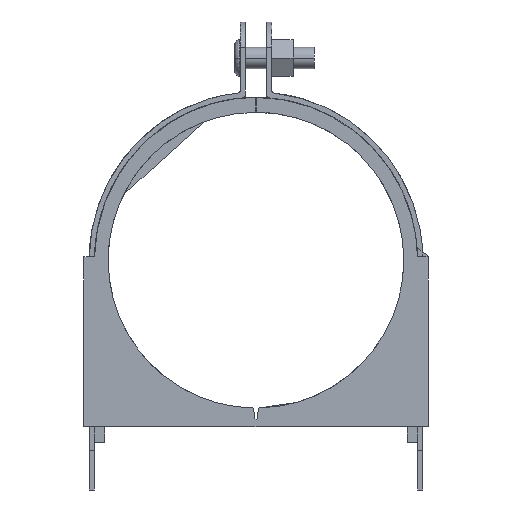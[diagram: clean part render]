
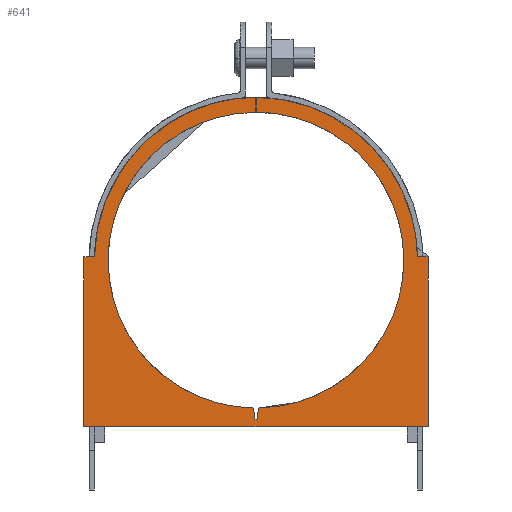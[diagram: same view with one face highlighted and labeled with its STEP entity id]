
A CAD part, front view. The second image highlights one B-rep face of the part: STEP entity #641.
In plain terms, the highlighted planar face has unit normal (0, -1, 0).
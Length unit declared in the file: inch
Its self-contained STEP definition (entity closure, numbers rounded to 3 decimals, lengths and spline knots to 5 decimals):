
#641=ADVANCED_FACE('',(#1455),#1456,.T.);
#1455=FACE_OUTER_BOUND('',#2841,.T.);
#1456=PLANE('',#2842);
#2841=EDGE_LOOP('',(#4366,#4367,#4368,#4369,#4370,#4371,#4372,#4373,#4374,#4375,#4376,#4377,#4378,#4379,#4380,#4381,#4382));
#2842=AXIS2_PLACEMENT_3D('',#4383,#4384,#4385);
#4366=ORIENTED_EDGE('',*,*,#5173,.F.);
#4367=ORIENTED_EDGE('',*,*,#5312,.F.);
#4368=ORIENTED_EDGE('',*,*,#5343,.F.);
#4369=ORIENTED_EDGE('',*,*,#5344,.F.);
#4370=ORIENTED_EDGE('',*,*,#5345,.F.);
#4371=ORIENTED_EDGE('',*,*,#5305,.F.);
#4372=ORIENTED_EDGE('',*,*,#5183,.F.);
#4373=ORIENTED_EDGE('',*,*,#5346,.F.);
#4374=ORIENTED_EDGE('',*,*,#5347,.F.);
#4375=ORIENTED_EDGE('',*,*,#5348,.F.);
#4376=ORIENTED_EDGE('',*,*,#5349,.F.);
#4377=ORIENTED_EDGE('',*,*,#5350,.F.);
#4378=ORIENTED_EDGE('',*,*,#5254,.F.);
#4379=ORIENTED_EDGE('',*,*,#5268,.F.);
#4380=ORIENTED_EDGE('',*,*,#5351,.F.);
#4381=ORIENTED_EDGE('',*,*,#5211,.F.);
#4382=ORIENTED_EDGE('',*,*,#5281,.F.);
#4383=CARTESIAN_POINT('',(1.97475,-0.125,2.54696));
#4384=DIRECTION('',(0.0,-1.0,0.0));
#4385=DIRECTION('',(1.0,0.0,0.0));
#5173=EDGE_CURVE('',#5566,#5567,#5568,.T.);
#5183=EDGE_CURVE('',#5584,#5585,#5586,.T.);
#5211=EDGE_CURVE('',#5629,#5630,#5631,.T.);
#5254=EDGE_CURVE('',#5698,#5699,#5700,.T.);
#5268=EDGE_CURVE('',#5714,#5698,#5715,.T.);
#5281=EDGE_CURVE('',#5567,#5629,#5732,.T.);
#5305=EDGE_CURVE('',#5585,#5769,#5770,.T.);
#5312=EDGE_CURVE('',#5778,#5566,#5779,.T.);
#5343=EDGE_CURVE('',#5818,#5778,#5819,.T.);
#5344=EDGE_CURVE('',#5820,#5818,#5821,.T.);
#5345=EDGE_CURVE('',#5769,#5820,#5822,.T.);
#5346=EDGE_CURVE('',#5823,#5584,#5824,.T.);
#5347=EDGE_CURVE('',#5825,#5823,#5826,.T.);
#5348=EDGE_CURVE('',#5827,#5825,#5828,.T.);
#5349=EDGE_CURVE('',#5829,#5827,#5830,.T.);
#5350=EDGE_CURVE('',#5699,#5829,#5831,.T.);
#5351=EDGE_CURVE('',#5630,#5714,#5832,.T.);
#5566=VERTEX_POINT('',#6148);
#5567=VERTEX_POINT('',#6149);
#5568=LINE('',#6150,#6151);
#5584=VERTEX_POINT('',#6178);
#5585=VERTEX_POINT('',#6179);
#5586=LINE('',#6180,#6181);
#5629=VERTEX_POINT('',#6259);
#5630=VERTEX_POINT('',#6260);
#5631=LINE('',#6261,#6262);
#5698=VERTEX_POINT('',#6394);
#5699=VERTEX_POINT('',#6395);
#5700=LINE('',#6396,#6397);
#5714=VERTEX_POINT('',#6427);
#5715=B_SPLINE_CURVE_WITH_KNOTS('',3,(#6428,#6429,#6430,#6431),.UNSPECIFIED.,.F.,.F.,(4,4),(-1.0,-0.0),.UNSPECIFIED.);
#5732=LINE('',#6477,#6478);
#5769=VERTEX_POINT('',#6548);
#5770=B_SPLINE_CURVE_WITH_KNOTS('',3,(#6549,#6550,#6551,#6552),.UNSPECIFIED.,.F.,.F.,(4,4),(-1.0,-0.0),.UNSPECIFIED.);
#5778=VERTEX_POINT('',#6564);
#5779=LINE('',#6565,#6566);
#5818=VERTEX_POINT('',#6636);
#5819=B_SPLINE_CURVE_WITH_KNOTS('',3,(#6637,#6638,#6639,#6640),.UNSPECIFIED.,.F.,.F.,(4,4),(-1.0,-0.0),.UNSPECIFIED.);
#5820=VERTEX_POINT('',#6641);
#5821=LINE('',#6642,#6643);
#5822=B_SPLINE_CURVE_WITH_KNOTS('',3,(#6644,#6645,#6646,#6647),.UNSPECIFIED.,.F.,.F.,(4,4),(-1.0,-0.0),.UNSPECIFIED.);
#5823=VERTEX_POINT('',#6648);
#5824=LINE('',#6649,#6650);
#5825=VERTEX_POINT('',#6651);
#5826=LINE('',#6652,#6653);
#5827=VERTEX_POINT('',#6654);
#5828=LINE('',#6655,#6656);
#5829=VERTEX_POINT('',#6657);
#5830=B_SPLINE_CURVE_WITH_KNOTS('',3,(#6658,#6659,#6660,#6661),.UNSPECIFIED.,.F.,.F.,(4,4),(-1.0,-0.0),.UNSPECIFIED.);
#5831=B_SPLINE_CURVE_WITH_KNOTS('',3,(#6662,#6663,#6664,#6665),.UNSPECIFIED.,.F.,.F.,(4,4),(-1.0,-0.0),.UNSPECIFIED.);
#5832=LINE('',#6666,#6667);
#6148=CARTESIAN_POINT('',(4.01196,-0.125,2.75915));
#6149=CARTESIAN_POINT('',(4.01196,-0.125,0.75));
#6150=CARTESIAN_POINT('',(4.01196,-0.125,0.75));
#6151=VECTOR('',#6981,1.0);
#6178=CARTESIAN_POINT('',(1.99084,-0.125,0.84307));
#6179=CARTESIAN_POINT('',(2.00265,-0.125,0.97019));
#6180=CARTESIAN_POINT('',(2.00265,-0.125,0.97019));
#6181=VECTOR('',#6987,1.);
#6259=CARTESIAN_POINT('',(-0.06248,-0.125,0.75));
#6260=CARTESIAN_POINT('',(-0.06248,-0.125,2.75915));
#6261=CARTESIAN_POINT('',(-0.06248,-0.125,2.75915));
#6262=VECTOR('',#7002,1.0);
#6394=CARTESIAN_POINT('',(1.9691,-0.125,4.64735));
#6395=CARTESIAN_POINT('',(1.96914,-0.125,4.47004));
#6396=CARTESIAN_POINT('',(1.96914,-0.125,4.47004));
#6397=VECTOR('',#7026,1.);
#6427=CARTESIAN_POINT('',(0.06331,-0.125,2.75915));
#6428=CARTESIAN_POINT('',(0.06331,-0.125,2.75915));
#6429=CARTESIAN_POINT('',(0.08395,-0.125,3.79555));
#6430=CARTESIAN_POINT('',(0.92885,-0.125,4.64427));
#6431=CARTESIAN_POINT('',(1.9691,-0.125,4.64735));
#6477=CARTESIAN_POINT('',(-0.06248,-0.125,0.75));
#6478=VECTOR('',#7033,1.0);
#6548=CARTESIAN_POINT('',(3.72471,-0.125,2.72005));
#6549=CARTESIAN_POINT('',(2.00265,-0.125,0.97019));
#6550=CARTESIAN_POINT('',(2.95629,-0.125,0.98507));
#6551=CARTESIAN_POINT('',(3.72471,-0.125,1.76286));
#6552=CARTESIAN_POINT('',(3.72471,-0.125,2.72005));
#6564=CARTESIAN_POINT('',(3.8865,-0.125,2.75915));
#6565=CARTESIAN_POINT('',(4.01196,-0.125,2.75915));
#6566=VECTOR('',#7053,1.0);
#6636=CARTESIAN_POINT('',(1.98043,-0.125,4.64735));
#6637=CARTESIAN_POINT('',(1.98043,-0.125,4.64735));
#6638=CARTESIAN_POINT('',(3.02082,-0.125,4.64433));
#6639=CARTESIAN_POINT('',(3.86598,-0.125,3.79569));
#6640=CARTESIAN_POINT('',(3.8865,-0.125,2.75915));
#6641=CARTESIAN_POINT('',(1.98054,-0.125,4.47004));
#6642=CARTESIAN_POINT('',(1.98043,-0.125,4.64735));
#6643=VECTOR('',#7067,1.);
#6644=CARTESIAN_POINT('',(3.72471,-0.125,2.72005));
#6645=CARTESIAN_POINT('',(3.72471,-0.125,3.68463));
#6646=CARTESIAN_POINT('',(2.94438,-0.125,4.46693));
#6647=CARTESIAN_POINT('',(1.98054,-0.125,4.47004));
#6648=CARTESIAN_POINT('',(1.97519,-0.125,0.83861));
#6649=CARTESIAN_POINT('',(1.99084,-0.125,0.84307));
#6650=VECTOR('',#7068,1.0);
#6651=CARTESIAN_POINT('',(1.95951,-0.125,0.84307));
#6652=CARTESIAN_POINT('',(1.97519,-0.125,0.83861));
#6653=VECTOR('',#7069,1.0);
#6654=CARTESIAN_POINT('',(1.94569,-0.125,0.97021));
#6655=CARTESIAN_POINT('',(1.95951,-0.125,0.84307));
#6656=VECTOR('',#7070,1.);
#6657=CARTESIAN_POINT('',(0.22471,-0.125,2.72005));
#6658=CARTESIAN_POINT('',(0.22471,-0.125,2.72005));
#6659=CARTESIAN_POINT('',(0.22471,-0.125,1.76331));
#6660=CARTESIAN_POINT('',(0.99267,-0.125,0.98579));
#6661=CARTESIAN_POINT('',(1.94569,-0.125,0.97021));
#6662=CARTESIAN_POINT('',(1.96914,-0.125,4.47004));
#6663=CARTESIAN_POINT('',(1.00516,-0.125,4.46709));
#6664=CARTESIAN_POINT('',(0.22471,-0.125,3.68473));
#6665=CARTESIAN_POINT('',(0.22471,-0.125,2.72005));
#6666=CARTESIAN_POINT('',(0.06331,-0.125,2.75915));
#6667=VECTOR('',#7071,1.0);
#6981=DIRECTION('',(-0.0,0.0,-1.0));
#6987=DIRECTION('',(0.092,0.0,0.996));
#7002=DIRECTION('',(0.0,0.0,1.0));
#7026=DIRECTION('',(0.,0.0,-1.));
#7033=DIRECTION('',(-1.0,0.0,-0.0));
#7053=DIRECTION('',(1.0,0.0,0.0));
#7067=DIRECTION('',(-0.001,0.0,1.));
#7068=DIRECTION('',(0.962,0.0,0.274));
#7069=DIRECTION('',(0.962,0.0,-0.274));
#7070=DIRECTION('',(0.108,0.0,-0.994));
#7071=DIRECTION('',(1.0,0.0,0.0));
